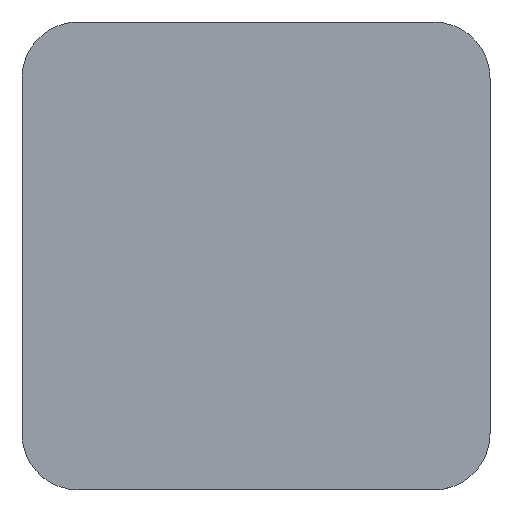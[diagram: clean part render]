
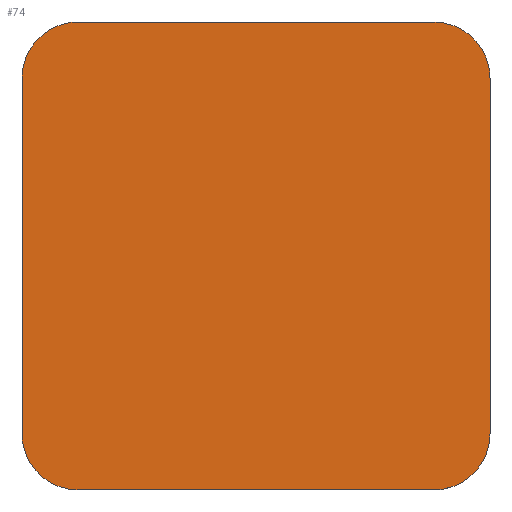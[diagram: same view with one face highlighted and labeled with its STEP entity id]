
A CAD part, top view. The second image highlights one B-rep face of the part: STEP entity #74.
In plain terms, the highlighted planar face has unit normal (0, 0, 1).
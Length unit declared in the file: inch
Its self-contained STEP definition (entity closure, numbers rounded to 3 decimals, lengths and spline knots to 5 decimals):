
#74=ADVANCED_FACE('',(#169),#170,.F.);
#169=FACE_OUTER_BOUND('',#304,.T.);
#170=PLANE('',#305);
#304=EDGE_LOOP('',(#481,#482,#483,#484,#485,#486,#487,#488));
#305=AXIS2_PLACEMENT_3D('',#489,#490,#491);
#481=ORIENTED_EDGE('',*,*,#776,.F.);
#482=ORIENTED_EDGE('',*,*,#777,.F.);
#483=ORIENTED_EDGE('',*,*,#772,.F.);
#484=ORIENTED_EDGE('',*,*,#756,.F.);
#485=ORIENTED_EDGE('',*,*,#778,.F.);
#486=ORIENTED_EDGE('',*,*,#779,.F.);
#487=ORIENTED_EDGE('',*,*,#780,.F.);
#488=ORIENTED_EDGE('',*,*,#746,.F.);
#489=CARTESIAN_POINT('',(0.70328,0.68739,0.44982));
#490=DIRECTION('',(0.0,0.0,-1.0));
#491=DIRECTION('',(-1.0,0.0,0.0));
#746=EDGE_CURVE('',#888,#889,#890,.T.);
#756=EDGE_CURVE('',#906,#907,#908,.T.);
#772=EDGE_CURVE('',#907,#934,#935,.T.);
#776=EDGE_CURVE('',#940,#888,#941,.T.);
#777=EDGE_CURVE('',#934,#940,#942,.T.);
#778=EDGE_CURVE('',#943,#906,#944,.T.);
#779=EDGE_CURVE('',#945,#943,#946,.T.);
#780=EDGE_CURVE('',#889,#945,#947,.T.);
#888=VERTEX_POINT('',#1130);
#889=VERTEX_POINT('',#1131);
#890=B_SPLINE_CURVE_WITH_KNOTS('',3,(#1132,#1133,#1134,#1135),.UNSPECIFIED.,.F.,.F.,(4,4),(0.0,1.0),.UNSPECIFIED.);
#906=VERTEX_POINT('',#1160);
#907=VERTEX_POINT('',#1161);
#908=B_SPLINE_CURVE_WITH_KNOTS('',3,(#1162,#1163,#1164,#1165),.UNSPECIFIED.,.F.,.F.,(4,4),(0.0,1.0),.UNSPECIFIED.);
#934=VERTEX_POINT('',#1217);
#935=LINE('',#1218,#1219);
#940=VERTEX_POINT('',#1226);
#941=LINE('',#1227,#1228);
#942=B_SPLINE_CURVE_WITH_KNOTS('',3,(#1229,#1230,#1231,#1232),.UNSPECIFIED.,.F.,.F.,(4,4),(0.0,1.0),.UNSPECIFIED.);
#943=VERTEX_POINT('',#1233);
#944=LINE('',#1234,#1235);
#945=VERTEX_POINT('',#1236);
#946=B_SPLINE_CURVE_WITH_KNOTS('',3,(#1237,#1238,#1239,#1240),.UNSPECIFIED.,.F.,.F.,(4,4),(0.0,1.0),.UNSPECIFIED.);
#947=LINE('',#1241,#1242);
#1130=CARTESIAN_POINT('',(1.30901,1.4842,0.44982));
#1131=CARTESIAN_POINT('',(1.50031,1.29291,0.44982));
#1132=CARTESIAN_POINT('',(1.30901,1.4842,0.44982));
#1133=CARTESIAN_POINT('',(1.41467,1.4842,0.44982));
#1134=CARTESIAN_POINT('',(1.50031,1.39856,0.44982));
#1135=CARTESIAN_POINT('',(1.50031,1.29291,0.44982));
#1160=CARTESIAN_POINT('',(0.09753,-0.10943,0.44982));
#1161=CARTESIAN_POINT('',(-0.09376,0.08187,0.44982));
#1162=CARTESIAN_POINT('',(0.09753,-0.10943,0.44982));
#1163=CARTESIAN_POINT('',(-0.00811,-0.10943,0.44982));
#1164=CARTESIAN_POINT('',(-0.09376,-0.02378,0.44982));
#1165=CARTESIAN_POINT('',(-0.09376,0.08187,0.44982));
#1217=CARTESIAN_POINT('',(-0.09376,1.29291,0.44982));
#1218=CARTESIAN_POINT('',(-0.09376,0.08187,0.44982));
#1219=VECTOR('',#1519,1.0);
#1226=CARTESIAN_POINT('',(0.09753,1.4842,0.44982));
#1227=CARTESIAN_POINT('',(0.09753,1.4842,0.44982));
#1228=VECTOR('',#1522,1.0);
#1229=CARTESIAN_POINT('',(-0.09376,1.29291,0.44982));
#1230=CARTESIAN_POINT('',(-0.09376,1.39856,0.44982));
#1231=CARTESIAN_POINT('',(-0.00811,1.4842,0.44982));
#1232=CARTESIAN_POINT('',(0.09753,1.4842,0.44982));
#1233=CARTESIAN_POINT('',(1.30901,-0.10943,0.44982));
#1234=CARTESIAN_POINT('',(1.30901,-0.10943,0.44982));
#1235=VECTOR('',#1523,1.0);
#1236=CARTESIAN_POINT('',(1.50031,0.08187,0.44982));
#1237=CARTESIAN_POINT('',(1.50031,0.08187,0.44982));
#1238=CARTESIAN_POINT('',(1.50031,-0.02378,0.44982));
#1239=CARTESIAN_POINT('',(1.41467,-0.10943,0.44982));
#1240=CARTESIAN_POINT('',(1.30901,-0.10943,0.44982));
#1241=CARTESIAN_POINT('',(1.50031,1.29291,0.44982));
#1242=VECTOR('',#1524,1.0);
#1519=DIRECTION('',(0.0,1.0,0.0));
#1522=DIRECTION('',(1.0,0.0,0.0));
#1523=DIRECTION('',(-1.0,0.0,0.0));
#1524=DIRECTION('',(0.0,-1.0,0.0));
